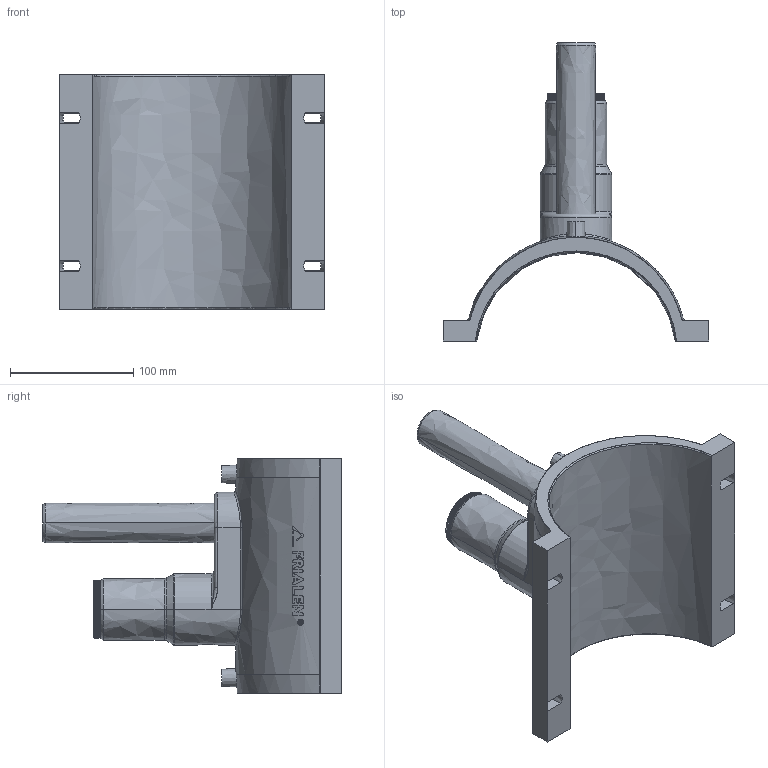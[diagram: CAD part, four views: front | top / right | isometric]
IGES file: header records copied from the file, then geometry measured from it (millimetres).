
Start section:  PTC IGES file: dap_d160_32_01.igs
Global section: file name: dap_d160_32_01.igs; native system: Pro/ENGINEER by Parametric Technology Corporation; preprocessor: 2011490; author: mtunjic; organization: Unknown; date: 20130909.082639; units: millimetre
Bounding box: 215 x 242 x 190 mm (x, y, z)
Surface area: 170208.7 mm2 (no closed solid volume)
Topology: 0 solids, 0 shells, 730 faces, 4200 edges, 4196 vertices
Faces by surface type: bspline 730
